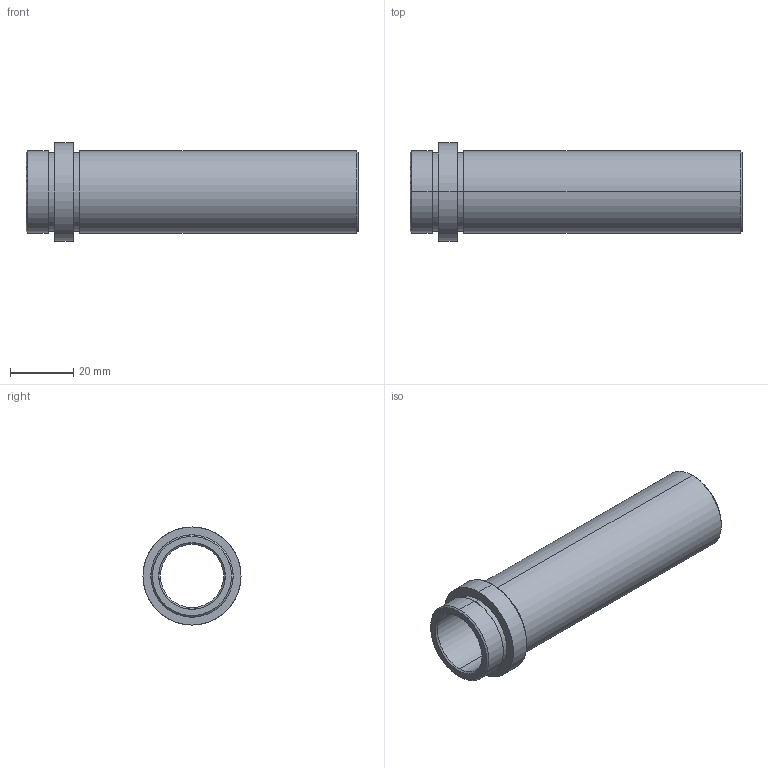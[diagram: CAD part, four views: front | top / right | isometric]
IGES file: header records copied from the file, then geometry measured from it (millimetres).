
Start section: SolidWorks IGES FILE using analytic representation for surfaces
Global section: file name: D:\zzzzz\Delta\D21\20\D21 - 20x96.IGS; native system: SolidWorks 2004 by SolidWorks Corporation; preprocessor: Version 5.3; author: Hkn; date: 080326.192037; units: millimetre
Bounding box: 105 x 31 x 31 mm (x, y, z)
Surface area: 16212.4 mm2 (no closed solid volume)
Topology: 0 solids, 0 shells, 26 faces, 528 edges, 528 vertices
Faces by surface type: revolution 20, bspline 6
